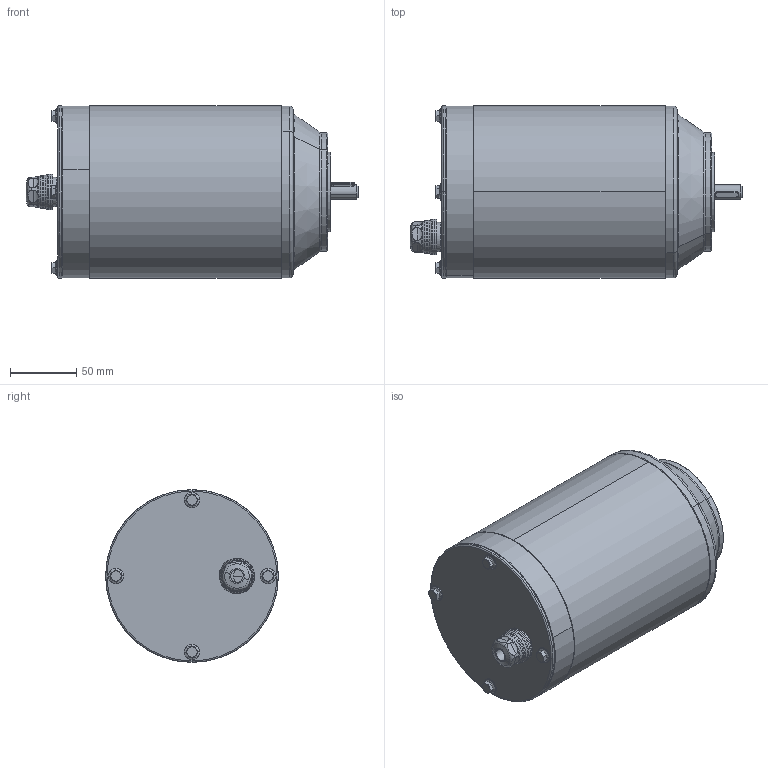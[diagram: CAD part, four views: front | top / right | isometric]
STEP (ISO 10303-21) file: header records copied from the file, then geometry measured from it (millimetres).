
FILE_DESCRIPTION(('STEP AP203'),'1');
FILE_NAME('63A4 B14.stp','2016-11-02T02:54:18',(' '),(' '),'Spatial InterOp 3D',' ',' ');
FILE_SCHEMA(('CONFIG_CONTROL_DESIGN'));
Length unit declared in the file: millimetre
Products named in the file (6): 63A4 B14; NAUO1
Assembly tree (5 placements, depth 2):
  63A4 B14
    NAUO1
    NAUO1
    NAUO1
    NAUO1
    NAUO1
Bounding box: 251.12 x 130.6 x 130.6 mm (x, y, z)
Volume: 2269732.3 mm3; surface area: 186810.9 mm2
Topology: 5 solids, 15 shells, 794 faces, 1826 edges, 1061 vertices
Faces by surface type: cylinder 215, torus 153, bspline 141, cone 134, plane 125, sphere 26
Entity records: 29085 total; most frequent: CARTESIAN_POINT 11768, DIRECTION 3634, ORIENTED_EDGE 3564, EDGE_CURVE 1782, AXIS2_PLACEMENT_3D 1608, VERTEX_POINT 1061, CIRCLE 949, EDGE_LOOP 859
